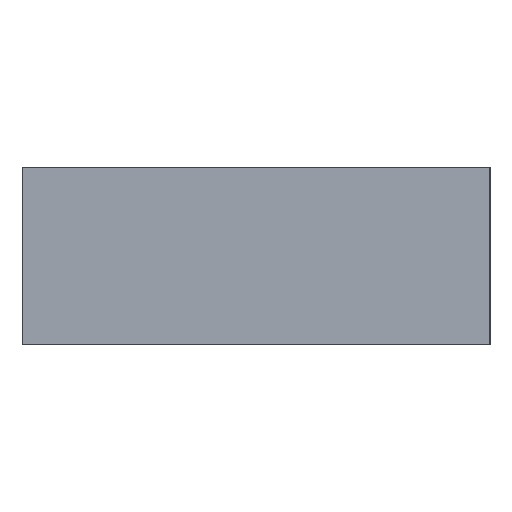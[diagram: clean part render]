
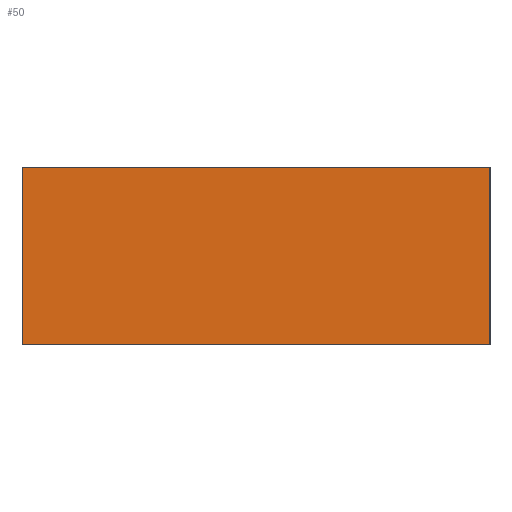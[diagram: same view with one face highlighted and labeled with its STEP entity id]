
A CAD part, left-side view. The second image highlights one B-rep face of the part: STEP entity #50.
In plain terms, the highlighted planar face has unit normal (-1, 0, 0).
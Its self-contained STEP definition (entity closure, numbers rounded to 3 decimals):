
#50 = ADVANCED_FACE( '', ( #119 ), #120, .F. );
#119 = FACE_OUTER_BOUND( '', #208, .T. );
#120 = PLANE( '', #209 );
#208 = EDGE_LOOP( '', ( #291, #292, #293, #294 ) );
#209 = AXIS2_PLACEMENT_3D( '', #295, #296, #297 );
#291 = ORIENTED_EDGE( '', *, *, #515, .T. );
#292 = ORIENTED_EDGE( '', *, *, #516, .F. );
#293 = ORIENTED_EDGE( '', *, *, #517, .F. );
#294 = ORIENTED_EDGE( '', *, *, #518, .T. );
#295 = CARTESIAN_POINT( '', ( -6.55, 0., 6.075 ) );
#296 = DIRECTION( '', ( 1., 0., 0. ) );
#297 = DIRECTION( '', ( 0., 0., -1. ) );
#515 = EDGE_CURVE( '', #601, #602, #603, .T. );
#516 = EDGE_CURVE( '', #604, #602, #605, .T. );
#517 = EDGE_CURVE( '', #606, #604, #607, .T. );
#518 = EDGE_CURVE( '', #606, #601, #608, .T. );
#601 = VERTEX_POINT( '', #727 );
#602 = VERTEX_POINT( '', #728 );
#603 = LINE( '', #729, #730 );
#604 = VERTEX_POINT( '', #731 );
#605 = LINE( '', #732, #733 );
#606 = VERTEX_POINT( '', #734 );
#607 = LINE( '', #735, #736 );
#608 = LINE( '', #737, #738 );
#727 = CARTESIAN_POINT( '', ( -6.55, 0., -6.075 ) );
#728 = CARTESIAN_POINT( '', ( -6.55, -32., -6.075 ) );
#729 = CARTESIAN_POINT( '', ( -6.55, 0., -6.075 ) );
#730 = VECTOR( '', #908, 1000. );
#731 = CARTESIAN_POINT( '', ( -6.55, -32., 6.075 ) );
#732 = CARTESIAN_POINT( '', ( -6.55, -32., 6.075 ) );
#733 = VECTOR( '', #909, 1000. );
#734 = CARTESIAN_POINT( '', ( -6.55, 0., 6.075 ) );
#735 = CARTESIAN_POINT( '', ( -6.55, 0., 6.075 ) );
#736 = VECTOR( '', #910, 1000. );
#737 = CARTESIAN_POINT( '', ( -6.55, 0., 6.075 ) );
#738 = VECTOR( '', #911, 1000. );
#908 = DIRECTION( '', ( 0., -1., 0. ) );
#909 = DIRECTION( '', ( 0., 0., -1. ) );
#910 = DIRECTION( '', ( 0., -1., 0. ) );
#911 = DIRECTION( '', ( 0., 0., -1. ) );
